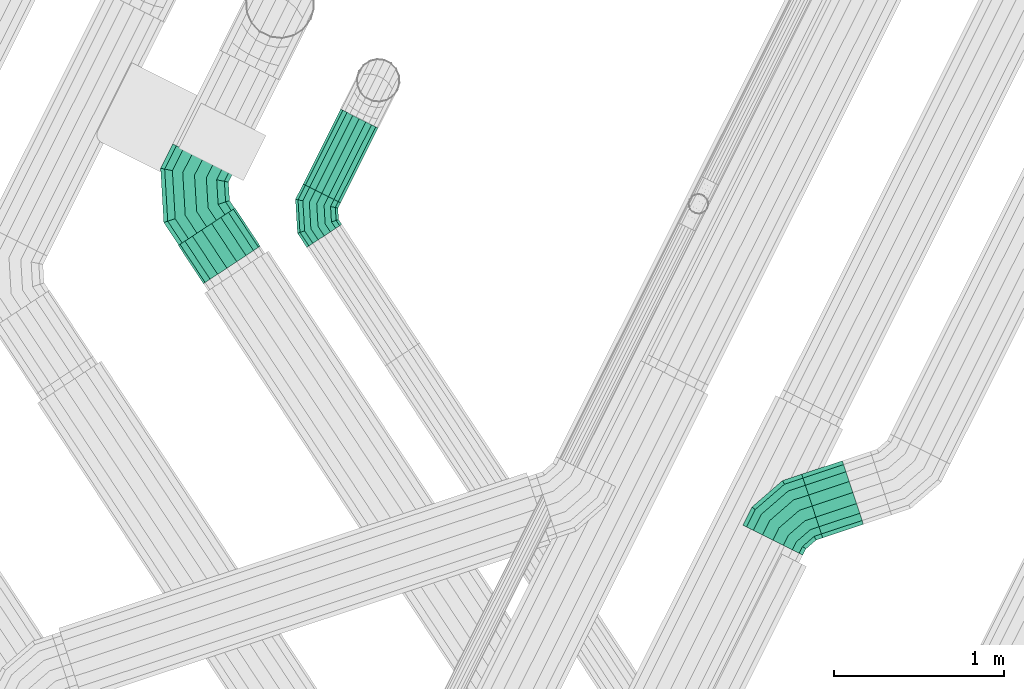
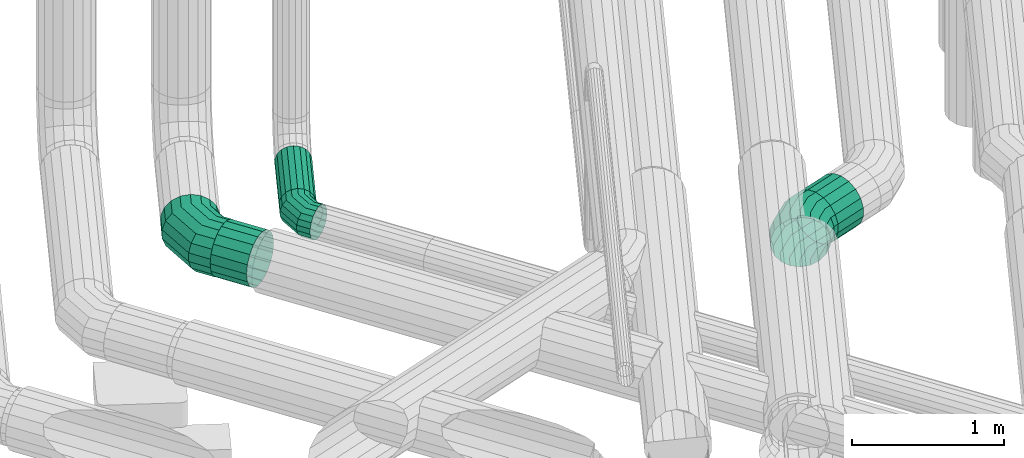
# One storey, part 137 of 206: 3 flow fittings, 3 flow segments.
"""IFC2X3 building model written with IfcOpenShell, lengths in metres."""

from ifc_helpers import new_model, si_unit, derived_unit, direction, frame, origin, place, context, subcontext, project, spatial, face_set, surface_model, source, transform, mapped, material, type_object, type_shapes, element, save


model = new_model("IFC2X3")

# Units and contexts
model_context = context("Model", 3, precision=5.2338327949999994e-05, world=origin(), true_north=direction((0.0, 1.0)))
body_context = subcontext(model_context, "Body", "Model", "MODEL_VIEW")
ifc_project = project(units=[si_unit("LENGTHUNIT", "METRE"), si_unit("AREAUNIT", "SQUARE_METRE"), si_unit("VOLUMEUNIT", "CUBIC_METRE"), si_unit("MASSUNIT", "GRAM", prefix="KILO"), si_unit("PLANEANGLEUNIT", "RADIAN"), derived_unit("THERMALTRANSMITTANCEUNIT", [(si_unit("MASSUNIT", "GRAM", prefix="KILO"), 1), (si_unit("THERMODYNAMICTEMPERATUREUNIT", "KELVIN"), -1), (si_unit("TIMEUNIT", "SECOND"), -3)])], contexts=[model_context])

# Site, building, storey
site_placement = place(None, frame((0.0, 0.0, 0.0), z_axis=(0.0, 0.0, 1.0), x_axis=(0.8939966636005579, -0.4480736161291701, 0.0)))
site = spatial("IfcSite", under=ifc_project, at=site_placement, Name="Default", CompositionType="ELEMENT")
building_placement = place(site_placement, origin())
building = spatial("IfcBuilding", under=site, at=building_placement, CompositionType="ELEMENT")
storey_placement = place(building_placement, origin())
storey = spatial("IfcBuildingStorey", under=building, at=storey_placement, Name="Erdgeschoss", CompositionType="ELEMENT", Elevation=0.0)

# Flow fitting
ifc_material = material(Name="IfcSurfaceStyle #251447")
distribution_element_type_1 = type_object("IfcDistributionElementType", Name="Segmentbogen 3 teilig 281600:Segmentbogen 3 teilig 281600", material=ifc_material)
shared_shape_1 = source(origin(), body_context, "Body", "SurfaceModel", [
    surface_model("IfcFaceBasedSurfaceModel", [(21.1572594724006, 11.983675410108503, 2.4000000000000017), (21.191461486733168, 12.042915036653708, 2.3879385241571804), (21.11451437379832, 12.087340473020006, 2.3879385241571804), (21.064439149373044, 12.037265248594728, 2.4000000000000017), (21.221538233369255, 12.095009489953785, 2.3532088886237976), (21.158549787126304, 12.131375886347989, 2.3532088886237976), (21.243862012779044, 12.133675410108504, 2.300000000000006), (21.19123406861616, 12.16406016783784, 2.300000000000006), (21.255740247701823, 12.15424911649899, 2.234729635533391), (21.208625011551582, 12.181451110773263, 2.234729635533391), (21.255740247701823, 12.154249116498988, 2.165270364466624), (21.208625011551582, 12.181451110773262, 2.165270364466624), (21.243862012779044, 12.133675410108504, 2.100000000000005), (21.19123406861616, 12.16406016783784, 2.100000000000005), (21.221538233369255, 12.09500948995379, 2.0467911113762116), (21.158549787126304, 12.13137588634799, 2.0467911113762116), (21.191461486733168, 12.04291503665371, 2.0120614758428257), (21.114514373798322, 12.087340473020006, 2.0120614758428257), (21.1572594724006, 11.983675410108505, 2.0), (21.064439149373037, 12.037265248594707, 2.0), (21.123057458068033, 11.9244357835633, 2.0120614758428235), (21.014363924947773, 11.987190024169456, 2.0120614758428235), (21.092980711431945, 11.87234133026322, 2.0467911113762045), (20.970328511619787, 11.943154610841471, 2.0467911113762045), (21.07065693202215, 11.833675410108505, 2.099999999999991), (20.93764423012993, 11.91047032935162, 2.099999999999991), (21.058778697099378, 11.813101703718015, 2.1652703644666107), (20.920253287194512, 11.893079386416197, 2.1652703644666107), (21.058778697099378, 11.813101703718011, 2.234729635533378), (20.920253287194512, 11.893079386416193, 2.234729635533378), (21.07065693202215, 11.833675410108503, 2.299999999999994), (20.93764423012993, 11.910470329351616, 2.299999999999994), (21.09298071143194, 11.87234133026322, 2.35320888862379), (20.970328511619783, 11.943154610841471, 2.35320888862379), (21.123057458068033, 11.924435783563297, 2.3879385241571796), (21.014363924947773, 11.987190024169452, 2.3879385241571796), (21.025663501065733, 12.241234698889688, 2.3879385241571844), (20.957259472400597, 12.222905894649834, 2.400000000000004), (21.085816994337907, 12.25735277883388, 2.3532088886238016), (21.130464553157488, 12.269316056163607, 2.3000000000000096), (21.15422102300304, 12.275681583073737, 2.23472963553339), (21.15422102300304, 12.275681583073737, 2.1652703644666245), (21.13046455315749, 12.269316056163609, 2.1000000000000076), (21.085816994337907, 12.257352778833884, 2.046791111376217), (21.02566350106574, 12.241234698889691, 2.0120614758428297), (20.957259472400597, 12.222905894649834, 2.0), (20.888855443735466, 12.204577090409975, 2.0120614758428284), (20.82870195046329, 12.188459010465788, 2.0467911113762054), (20.784054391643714, 12.17649573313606, 2.0999999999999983), (20.76029792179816, 12.170130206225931, 2.16527036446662), (20.76029792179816, 12.170130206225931, 2.2347296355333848), (20.784054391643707, 12.17649573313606, 2.3), (20.82870195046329, 12.188459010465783, 2.353208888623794), (20.888855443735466, 12.204577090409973, 2.387938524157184), (21.02566350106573, 12.330085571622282, 2.387938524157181), (20.957259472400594, 12.330085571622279, 2.399999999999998), (21.085816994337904, 12.330085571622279, 2.353208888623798), (21.130464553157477, 12.330085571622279, 2.300000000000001), (21.154221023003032, 12.330085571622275, 2.234729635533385), (21.154221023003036, 12.330085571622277, 2.1652703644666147), (21.130464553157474, 12.330085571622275, 2.1000000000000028), (21.085816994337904, 12.330085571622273, 2.046791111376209), (21.025663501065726, 12.330085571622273, 2.0120614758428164), (20.95725947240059, 12.33008557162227, 2.0), (20.88885544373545, 12.330085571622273, 2.0120614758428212), (20.82870195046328, 12.330085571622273, 2.046791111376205), (20.784054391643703, 12.330085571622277, 2.1), (20.760297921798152, 12.330085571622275, 2.1652703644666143), (20.760297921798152, 12.330085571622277, 2.2347296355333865), (20.7840543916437, 12.330085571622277, 2.300000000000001), (20.82870195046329, 12.330085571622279, 2.353208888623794), (20.888855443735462, 12.330085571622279, 2.3879385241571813)], [face_set([[[0, 1, 2, 3]], [[1, 4, 5, 2]], [[4, 6, 7, 5]], [[6, 8, 9, 7]], [[8, 10, 11, 9]], [[10, 12, 13, 11]], [[12, 14, 15, 13]], [[14, 16, 17, 15]], [[16, 18, 19, 17]], [[18, 20, 21, 19]], [[20, 22, 23, 21]], [[22, 24, 25, 23]], [[24, 26, 27, 25]], [[26, 28, 29, 27]], [[28, 30, 31, 29]], [[30, 32, 33, 31]], [[32, 34, 35, 33]], [[34, 0, 3, 35]], [[3, 2, 36, 37]], [[2, 5, 38, 36]], [[5, 7, 39, 38]], [[7, 9, 40, 39]], [[9, 11, 41, 40]], [[11, 13, 42, 41]], [[13, 15, 43, 42]], [[15, 17, 44, 43]], [[17, 19, 45, 44]], [[19, 21, 46, 45]], [[21, 23, 47, 46]], [[23, 25, 48, 47]], [[25, 27, 49, 48]], [[27, 29, 50, 49]], [[29, 31, 51, 50]], [[31, 33, 52, 51]], [[33, 35, 53, 52]], [[35, 3, 37, 53]], [[37, 36, 54, 55]], [[36, 38, 56, 54]], [[38, 39, 57, 56]], [[39, 40, 58, 57]], [[40, 41, 59, 58]], [[41, 42, 60, 59]], [[42, 43, 61, 60]], [[43, 44, 62, 61]], [[44, 45, 63, 62]], [[45, 46, 64, 63]], [[46, 47, 65, 64]], [[47, 48, 66, 65]], [[48, 49, 67, 66]], [[49, 50, 68, 67]], [[50, 51, 69, 68]], [[51, 52, 70, 69]], [[52, 53, 71, 70]], [[53, 37, 55, 71]]])]),
])
type_shapes(distribution_element_type_1, [shared_shape_1])
flow_fitting_1_placement = place(storey_placement, origin())
element("IfcFlowFitting", 1, at=flow_fitting_1_placement, inside=storey, type_object=distribution_element_type_1, material=ifc_material, Name="Segmentbogen 3 teilig", ObjectType="Segmentbogen 3 teilig", context=body_context, shape_type="MappedRepresentation", body=[
    mapped(shared_shape_1, transform((0.0, 0.0, 0.0), scale=1.0)),
])

# Flow segment
distribution_element_type_2 = type_object("IfcDistributionElementType", Name="Wickelfalzrohr 281623:Wickelfalzrohr 281623", material=ifc_material)
shared_shape_2 = source(origin(), body_context, "Body", "SurfaceModel", [
    surface_model("IfcFaceBasedSurfaceModel", [(21.290150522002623, 11.676010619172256, 2.200000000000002), (21.296181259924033, 11.68645616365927, 2.2684040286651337), (21.063290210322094, 11.820915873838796, 2.2684040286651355), (21.057259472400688, 11.81047032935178, 2.200000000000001), (21.313546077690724, 11.716532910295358, 2.3285575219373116), (21.080655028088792, 11.850992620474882, 2.328557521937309), (21.34015052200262, 11.762613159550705, 2.3732050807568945), (21.10725947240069, 11.897072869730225, 2.3732050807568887), (21.37278570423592, 11.819138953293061, 2.396961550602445), (21.13989465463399, 11.953598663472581, 2.396961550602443), (21.40751533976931, 11.879292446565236, 2.3969615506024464), (21.174624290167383, 12.01375215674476, 2.3969615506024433), (21.440150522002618, 11.935818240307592, 2.373205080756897), (21.207259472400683, 12.070277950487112, 2.37320508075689), (21.46675496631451, 11.981898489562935, 2.3285575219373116), (21.233863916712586, 12.116358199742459, 2.3285575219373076), (21.48411978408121, 12.011975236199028, 2.2684040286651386), (21.251228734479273, 12.146434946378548, 2.2684040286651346), (21.490150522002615, 12.022420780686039, 2.200000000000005), (21.25725947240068, 12.15688049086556, 2.200000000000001), (21.4841197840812, 12.011975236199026, 2.1315959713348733), (21.251228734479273, 12.146434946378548, 2.131595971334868), (21.46675496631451, 11.98189848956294, 2.071442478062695), (21.233863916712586, 12.11635819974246, 2.071442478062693), (21.440150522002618, 11.935818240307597, 2.026794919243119), (21.207259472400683, 12.070277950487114, 2.026794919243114), (21.40751533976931, 11.87929244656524, 2.003038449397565), (21.174624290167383, 12.01375215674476, 2.00303844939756), (21.37278570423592, 11.819138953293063, 2.003038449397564), (21.13989465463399, 11.953598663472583, 2.00303844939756), (21.34015052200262, 11.762613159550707, 2.0267949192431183), (21.10725947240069, 11.897072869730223, 2.0267949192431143), (21.313546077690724, 11.716532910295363, 2.0714424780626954), (21.080655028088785, 11.85099262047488, 2.071442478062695), (21.296181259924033, 11.686456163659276, 2.13159597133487), (21.0632902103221, 11.820915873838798, 2.131595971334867)], [face_set([[[0, 1, 2, 3]], [[1, 4, 5, 2]], [[4, 6, 7, 5]], [[6, 8, 9, 7]], [[8, 10, 11, 9]], [[10, 12, 13, 11]], [[12, 14, 15, 13]], [[14, 16, 17, 15]], [[16, 18, 19, 17]], [[18, 20, 21, 19]], [[20, 22, 23, 21]], [[22, 24, 25, 23]], [[24, 26, 27, 25]], [[26, 28, 29, 27]], [[28, 30, 31, 29]], [[30, 32, 33, 31]], [[32, 34, 35, 33]], [[34, 0, 3, 35]]])]),
])
type_shapes(distribution_element_type_2, [shared_shape_2])
flow_segment_1_placement = place(storey_placement, origin())
element("IfcFlowSegment", 2, at=flow_segment_1_placement, inside=storey, type_object=distribution_element_type_2, material=ifc_material, Name="Wickelfalzrohr", ObjectType="Wickelfalzrohr", context=body_context, shape_type="MappedRepresentation", body=[
    mapped(shared_shape_2, transform((0.0, 0.0, 0.0), scale=1.0)),
])

# Flow fitting
distribution_element_type_3 = type_object("IfcDistributionElementType", Name="Segmentbogen 3 teilig 284191:Segmentbogen 3 teilig 284191", material=ifc_material)
shared_shape_3 = source(origin(), body_context, "Body", "SurfaceModel", [
    surface_model("IfcFaceBasedSurfaceModel", [(21.79977043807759, 12.24569064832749, 2.3249999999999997), (21.821146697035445, 12.282715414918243, 2.3174615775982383), (21.773054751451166, 12.310481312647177, 2.3174615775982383), (21.74175773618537, 12.27918429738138, 2.3249999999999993), (21.839944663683, 12.31527444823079, 2.2957555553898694), (21.800576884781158, 12.338003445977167, 2.2957555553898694), (21.853897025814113, 12.339440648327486, 2.262499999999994), (21.821004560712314, 12.358431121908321, 2.262499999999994), (21.861320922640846, 12.352299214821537, 2.2217060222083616), (21.83187390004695, 12.369300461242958, 2.2217060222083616), (21.861320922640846, 12.352299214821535, 2.1782939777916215), (21.83187390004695, 12.369300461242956, 2.1782939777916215), (21.85389702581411, 12.339440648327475, 2.137499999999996), (21.821004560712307, 12.35843112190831, 2.137499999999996), (21.83994466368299, 12.315274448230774, 2.1042444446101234), (21.800576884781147, 12.338003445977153, 2.104244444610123), (21.821146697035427, 12.282715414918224, 2.0825384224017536), (21.773054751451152, 12.310481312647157, 2.0825384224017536), (21.799770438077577, 12.24569064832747, 2.075000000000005), (21.74175773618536, 12.27918429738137, 2.0750000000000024), (21.778394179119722, 12.208665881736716, 2.0825384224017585), (21.710460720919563, 12.247887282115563, 2.0825384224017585), (21.75959621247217, 12.176106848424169, 2.104244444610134), (21.68293858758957, 12.220365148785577, 2.104244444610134), (21.745643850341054, 12.151940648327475, 2.137500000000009), (21.662510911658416, 12.199937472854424, 2.1375000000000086), (21.738219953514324, 12.139082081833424, 2.1782939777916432), (21.65164157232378, 12.189068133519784, 2.1782939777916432), (21.73821995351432, 12.139082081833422, 2.221706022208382), (21.65164157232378, 12.189068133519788, 2.221706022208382), (21.745643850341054, 12.15194064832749, 2.262500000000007), (21.66251091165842, 12.199937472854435, 2.2625000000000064), (21.75959621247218, 12.176106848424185, 2.295755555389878), (21.682938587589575, 12.22036514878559, 2.295755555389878), (21.778394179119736, 12.208665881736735, 2.3174615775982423), (21.71046072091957, 12.247887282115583, 2.3174615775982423), (21.7175229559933, 12.406665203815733, 2.3174615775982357), (21.674770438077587, 12.39520970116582, 2.324999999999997), (21.7551188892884, 12.41673900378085, 2.2957555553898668), (21.783023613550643, 12.424216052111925, 2.26249999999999), (21.797871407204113, 12.428194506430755, 2.221706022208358), (21.797871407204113, 12.42819450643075, 2.1782939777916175), (21.783023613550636, 12.424216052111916, 2.1374999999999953), (21.755118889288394, 12.416739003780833, 2.104244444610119), (21.71752295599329, 12.406665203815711, 2.0825384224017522), (21.674770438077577, 12.3952097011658, 2.0749999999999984), (21.632017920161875, 12.383754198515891, 2.0825384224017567), (21.594421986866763, 12.373680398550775, 2.104244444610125), (21.56651726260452, 12.366203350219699, 2.137500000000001), (21.551669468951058, 12.36222489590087, 2.178293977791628), (21.55166946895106, 12.362224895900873, 2.2217060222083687), (21.56651726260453, 12.36620335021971, 2.2625), (21.59442198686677, 12.37368039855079, 2.2957555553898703), (21.632017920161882, 12.383754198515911, 2.3174615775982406), (21.717522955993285, 12.462196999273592, 2.317461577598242), (21.674770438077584, 12.462196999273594, 2.3249999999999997), (21.755118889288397, 12.462196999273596, 2.2957555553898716), (21.78302361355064, 12.462196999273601, 2.262500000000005), (21.79787140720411, 12.462196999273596, 2.2217060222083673), (21.79787140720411, 12.462196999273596, 2.1782939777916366), (21.783023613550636, 12.4621969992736, 2.137500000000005), (21.755118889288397, 12.462196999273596, 2.104244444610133), (21.717522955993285, 12.462196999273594, 2.0825384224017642), (21.674770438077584, 12.462196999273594, 2.0750000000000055), (21.632017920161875, 12.462196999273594, 2.0825384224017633), (21.594421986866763, 12.462196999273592, 2.104244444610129), (21.56651726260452, 12.46219699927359, 2.1375000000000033), (21.55166946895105, 12.462196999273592, 2.178293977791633), (21.55166946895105, 12.462196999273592, 2.2217060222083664), (21.56651726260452, 12.462196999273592, 2.262500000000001), (21.59442198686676, 12.462196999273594, 2.2957555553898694), (21.63201792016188, 12.462196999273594, 2.317461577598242)], [face_set([[[0, 1, 2, 3]], [[1, 4, 5, 2]], [[4, 6, 7, 5]], [[6, 8, 9, 7]], [[8, 10, 11, 9]], [[10, 12, 13, 11]], [[12, 14, 15, 13]], [[14, 16, 17, 15]], [[16, 18, 19, 17]], [[18, 20, 21, 19]], [[20, 22, 23, 21]], [[22, 24, 25, 23]], [[24, 26, 27, 25]], [[26, 28, 29, 27]], [[28, 30, 31, 29]], [[30, 32, 33, 31]], [[32, 34, 35, 33]], [[34, 0, 3, 35]], [[3, 2, 36, 37]], [[2, 5, 38, 36]], [[5, 7, 39, 38]], [[7, 9, 40, 39]], [[9, 11, 41, 40]], [[11, 13, 42, 41]], [[13, 15, 43, 42]], [[15, 17, 44, 43]], [[17, 19, 45, 44]], [[19, 21, 46, 45]], [[21, 23, 47, 46]], [[23, 25, 48, 47]], [[25, 27, 49, 48]], [[27, 29, 50, 49]], [[29, 31, 51, 50]], [[31, 33, 52, 51]], [[33, 35, 53, 52]], [[35, 3, 37, 53]], [[37, 36, 54, 55]], [[36, 38, 56, 54]], [[38, 39, 57, 56]], [[39, 40, 58, 57]], [[40, 41, 59, 58]], [[41, 42, 60, 59]], [[42, 43, 61, 60]], [[43, 44, 62, 61]], [[44, 45, 63, 62]], [[45, 46, 64, 63]], [[46, 47, 65, 64]], [[47, 48, 66, 65]], [[48, 49, 67, 66]], [[49, 50, 68, 67]], [[50, 51, 69, 68]], [[51, 52, 70, 69]], [[52, 53, 71, 70]], [[53, 37, 55, 71]]])]),
])
type_shapes(distribution_element_type_3, [shared_shape_3])
flow_fitting_2_placement = place(storey_placement, origin())
element("IfcFlowFitting", 3, at=flow_fitting_2_placement, inside=storey, type_object=distribution_element_type_3, material=ifc_material, Name="Segmentbogen 3 teilig", ObjectType="Segmentbogen 3 teilig", context=body_context, shape_type="MappedRepresentation", body=[
    mapped(shared_shape_3, transform((0.0, 0.0, 0.0), scale=1.0)),
])

# Flow segment
distribution_element_type_4 = type_object("IfcDistributionElementType", Name="Wickelfalzrohr 284655:Wickelfalzrohr 284655", material=ifc_material)
shared_shape_4 = source(origin(), body_context, "Body", "SurfaceModel", [
    surface_model("IfcFaceBasedSurfaceModel", [(21.67477043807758, 12.4621969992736, 2.0749999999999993), (21.63201792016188, 12.4621969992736, 2.0825384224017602), (21.63201792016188, 12.9551969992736, 2.08253842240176), (21.674770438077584, 12.9551969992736, 2.074999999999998), (21.594421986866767, 12.4621969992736, 2.1042444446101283), (21.594421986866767, 12.9551969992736, 2.1042444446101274), (21.56651726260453, 12.4621969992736, 2.1375000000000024), (21.56651726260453, 12.9551969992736, 2.137500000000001), (21.55166946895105, 12.4621969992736, 2.178293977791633), (21.551669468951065, 12.9551969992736, 2.178293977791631), (21.551669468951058, 12.4621969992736, 2.221706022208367), (21.551669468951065, 12.9551969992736, 2.221706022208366), (21.566517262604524, 12.4621969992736, 2.2624999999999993), (21.566517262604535, 12.9551969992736, 2.2624999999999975), (21.594421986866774, 12.4621969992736, 2.2957555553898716), (21.59442198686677, 12.9551969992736, 2.2957555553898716), (21.63201792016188, 12.4621969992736, 2.317461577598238), (21.632017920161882, 12.9551969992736, 2.3174615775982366), (21.674770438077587, 12.4621969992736, 2.3249999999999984), (21.674770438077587, 12.9551969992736, 2.3249999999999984), (21.71752295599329, 12.4621969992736, 2.3174615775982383), (21.7175229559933, 12.9551969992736, 2.3174615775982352), (21.7551188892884, 12.4621969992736, 2.29575555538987), (21.755118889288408, 12.9551969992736, 2.2957555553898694), (21.78302361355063, 12.4621969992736, 2.262499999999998), (21.783023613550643, 12.9551969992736, 2.2624999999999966), (21.797871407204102, 12.4621969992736, 2.221706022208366), (21.797871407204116, 12.9551969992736, 2.221706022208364), (21.7978714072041, 12.4621969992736, 2.178293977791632), (21.797871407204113, 12.9551969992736, 2.1782939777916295), (21.783023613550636, 12.4621969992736, 2.1374999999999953), (21.783023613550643, 12.9551969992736, 2.1374999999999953), (21.755118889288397, 12.4621969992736, 2.1042444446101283), (21.755118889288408, 12.9551969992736, 2.104244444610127), (21.717522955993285, 12.4621969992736, 2.082538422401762), (21.717522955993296, 12.9551969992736, 2.0825384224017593)], [face_set([[[0, 1, 2, 3]], [[1, 4, 5, 2]], [[4, 6, 7, 5]], [[6, 8, 9, 7]], [[8, 10, 11, 9]], [[10, 12, 13, 11]], [[12, 14, 15, 13]], [[14, 16, 17, 15]], [[16, 18, 19, 17]], [[18, 20, 21, 19]], [[20, 22, 23, 21]], [[22, 24, 25, 23]], [[24, 26, 27, 25]], [[26, 28, 29, 27]], [[28, 30, 31, 29]], [[30, 32, 33, 31]], [[32, 34, 35, 33]], [[34, 0, 3, 35]]])]),
])
type_shapes(distribution_element_type_4, [shared_shape_4])
flow_segment_2_placement = place(storey_placement, origin())
element("IfcFlowSegment", 4, at=flow_segment_2_placement, inside=storey, type_object=distribution_element_type_4, material=ifc_material, Name="Wickelfalzrohr", ObjectType="Wickelfalzrohr", context=body_context, shape_type="MappedRepresentation", body=[
    mapped(shared_shape_4, transform((0.0, 0.0, 0.0), scale=1.0)),
])

# Flow fitting
distribution_element_type_5 = type_object("IfcDistributionElementType", Name="Segmentbogen 3 teilig 295357:Segmentbogen 3 teilig 295357", material=ifc_material)
shared_shape_5 = source(origin(), body_context, "Body", "SurfaceModel", [
    surface_model("IfcFaceBasedSurfaceModel", [(25.07766627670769, 12.111051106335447, 2.0), (25.12603522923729, 12.062682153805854, 2.012061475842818), (25.079395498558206, 12.016042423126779, 2.0120614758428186), (25.02140536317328, 12.054790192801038, 2.0), (25.168570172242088, 12.020147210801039, 2.0467911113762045), (25.130391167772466, 11.981968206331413, 2.0467911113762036), (25.20014076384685, 11.988576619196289, 2.1000000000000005), (25.168241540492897, 11.956677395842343, 2.0999999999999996), (25.21693912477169, 11.971778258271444, 2.1652703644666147), (25.188381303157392, 11.943220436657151, 2.1652703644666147), (25.21693912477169, 11.971778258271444, 2.234729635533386), (25.188381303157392, 11.943220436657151, 2.234729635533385), (25.200140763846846, 11.988576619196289, 2.3), (25.168241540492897, 11.956677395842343, 2.299999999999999), (25.168570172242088, 12.02014721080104, 2.353208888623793), (25.130391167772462, 11.981968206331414, 2.353208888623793), (25.12603522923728, 12.062682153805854, 2.3879385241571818), (25.079395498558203, 12.016042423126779, 2.3879385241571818), (25.07766627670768, 12.11105110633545, 2.3999999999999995), (25.021405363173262, 12.054790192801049, 2.399999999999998), (25.029297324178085, 12.159420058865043, 2.387938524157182), (24.963415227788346, 12.093537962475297, 2.387938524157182), (24.986762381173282, 12.201955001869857, 2.353208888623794), (24.91241955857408, 12.12761217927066, 2.3532088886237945), (24.955191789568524, 12.233525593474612, 2.3000000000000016), (24.87456918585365, 12.152902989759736, 2.300000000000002), (24.93839342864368, 12.250323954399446, 2.2347296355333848), (24.854429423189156, 12.166359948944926, 2.2347296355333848), (24.93839342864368, 12.250323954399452, 2.1652703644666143), (24.854429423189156, 12.166359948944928, 2.1652703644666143), (24.955191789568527, 12.233525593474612, 2.099999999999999), (24.87456918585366, 12.152902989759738, 2.0999999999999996), (24.986762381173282, 12.201955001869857, 2.046791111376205), (24.91241955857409, 12.127612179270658, 2.0467911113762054), (25.029297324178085, 12.159420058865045, 2.012061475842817), (24.963415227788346, 12.093537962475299, 2.0120614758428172), (25.02891301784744, 11.894166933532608, 2.0120614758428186), (24.96050898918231, 11.907773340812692, 2.0), (25.089066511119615, 11.882201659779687, 2.0467911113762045), (25.13371406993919, 11.873320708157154, 2.1000000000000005), (25.15747053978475, 11.868595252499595, 2.1652703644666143), (25.157470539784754, 11.868595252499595, 2.234729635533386), (25.133714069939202, 11.873320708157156, 2.3000000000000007), (25.089066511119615, 11.882201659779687, 2.353208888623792), (25.02891301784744, 11.894166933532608, 2.3879385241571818), (24.960508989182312, 11.907773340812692, 2.3999999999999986), (24.892104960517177, 11.921379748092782, 2.3879385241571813), (24.831951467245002, 11.933345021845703, 2.3532088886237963), (24.787303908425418, 11.942225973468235, 2.2999999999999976), (24.763547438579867, 11.946951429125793, 2.2347296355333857), (24.76354743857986, 11.946951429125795, 2.1652703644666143), (24.787303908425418, 11.942225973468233, 2.1), (24.83195146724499, 11.933345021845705, 2.0467911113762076), (24.892104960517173, 11.921379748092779, 2.0120614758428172), (25.02891301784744, 11.828208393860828, 2.0120614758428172), (24.96050898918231, 11.828208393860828, 2.0), (25.08906651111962, 11.828208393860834, 2.0467911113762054), (25.133714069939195, 11.828208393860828, 2.099999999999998), (25.157470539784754, 11.828208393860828, 2.165270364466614), (25.157470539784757, 11.828208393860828, 2.234729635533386), (25.133714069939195, 11.828208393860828, 2.3000000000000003), (25.08906651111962, 11.828208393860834, 2.3532088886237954), (25.02891301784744, 11.828208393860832, 2.3879385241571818), (24.960508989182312, 11.828208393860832, 2.4), (24.892104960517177, 11.828208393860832, 2.3879385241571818), (24.831951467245, 11.828208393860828, 2.353208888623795), (24.787303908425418, 11.828208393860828, 2.3000000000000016), (24.76354743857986, 11.828208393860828, 2.2347296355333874), (24.763547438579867, 11.828208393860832, 2.165270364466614), (24.787303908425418, 11.828208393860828, 2.1), (24.83195146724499, 11.828208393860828, 2.0467911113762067), (24.892104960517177, 11.828208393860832, 2.0120614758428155)], [face_set([[[0, 1, 2, 3]], [[1, 4, 5, 2]], [[4, 6, 7, 5]], [[6, 8, 9, 7]], [[8, 10, 11, 9]], [[10, 12, 13, 11]], [[12, 14, 15, 13]], [[14, 16, 17, 15]], [[16, 18, 19, 17]], [[18, 20, 21, 19]], [[20, 22, 23, 21]], [[22, 24, 25, 23]], [[24, 26, 27, 25]], [[26, 28, 29, 27]], [[28, 30, 31, 29]], [[30, 32, 33, 31]], [[32, 34, 35, 33]], [[34, 0, 3, 35]], [[3, 2, 36, 37]], [[2, 5, 38, 36]], [[5, 7, 39, 38]], [[7, 9, 40, 39]], [[9, 11, 41, 40]], [[11, 13, 42, 41]], [[13, 15, 43, 42]], [[15, 17, 44, 43]], [[17, 19, 45, 44]], [[19, 21, 46, 45]], [[21, 23, 47, 46]], [[23, 25, 48, 47]], [[25, 27, 49, 48]], [[27, 29, 50, 49]], [[29, 31, 51, 50]], [[31, 33, 52, 51]], [[33, 35, 53, 52]], [[35, 3, 37, 53]], [[37, 36, 54, 55]], [[36, 38, 56, 54]], [[38, 39, 57, 56]], [[39, 40, 58, 57]], [[40, 41, 59, 58]], [[41, 42, 60, 59]], [[42, 43, 61, 60]], [[43, 44, 62, 61]], [[44, 45, 63, 62]], [[45, 46, 64, 63]], [[46, 47, 65, 64]], [[47, 48, 66, 65]], [[48, 49, 67, 66]], [[49, 50, 68, 67]], [[50, 51, 69, 68]], [[51, 52, 70, 69]], [[52, 53, 71, 70]], [[53, 37, 55, 71]]])]),
])
type_shapes(distribution_element_type_5, [shared_shape_5])
flow_fitting_3_placement = place(storey_placement, origin())
element("IfcFlowFitting", 5, at=flow_fitting_3_placement, inside=storey, type_object=distribution_element_type_5, material=ifc_material, Name="Segmentbogen 3 teilig", ObjectType="Segmentbogen 3 teilig", context=body_context, shape_type="MappedRepresentation", body=[
    mapped(shared_shape_5, transform((0.0, 0.0, 0.0), scale=1.0)),
])

# Flow segment
distribution_element_type_6 = type_object("IfcDistributionElementType", Name="Wickelfalzrohr 295891:Wickelfalzrohr 295891", material=ifc_material)
shared_shape_6 = source(origin(), body_context, "Body", "SurfaceModel", [
    surface_model("IfcFaceBasedSurfaceModel", [(25.07766627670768, 12.111051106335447, 2.0), (25.02929732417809, 12.159420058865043, 2.0120614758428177), (25.20762557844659, 12.337748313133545, 2.0120614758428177), (25.255994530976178, 12.289379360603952, 2.0), (24.98676238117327, 12.201955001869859, 2.0467911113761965), (25.16509063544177, 12.380283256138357, 2.0467911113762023), (24.95519178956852, 12.233525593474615, 2.099999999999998), (25.133520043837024, 12.41185384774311, 2.100000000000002), (24.938393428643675, 12.250323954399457, 2.165270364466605), (25.116721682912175, 12.428652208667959, 2.165270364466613), (24.938393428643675, 12.250323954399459, 2.2347296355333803), (25.116721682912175, 12.428652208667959, 2.234729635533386), (24.955191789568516, 12.233525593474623, 2.2999999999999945), (25.13352004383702, 12.411853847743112, 2.300000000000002), (24.986762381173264, 12.201955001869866, 2.353208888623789), (25.16509063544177, 12.380283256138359, 2.353208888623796), (25.02929732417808, 12.159420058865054, 2.3879385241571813), (25.20762557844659, 12.337748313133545, 2.3879385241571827), (25.077666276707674, 12.111051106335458, 2.400000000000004), (25.255994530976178, 12.289379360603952, 2.4000000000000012), (25.126035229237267, 12.062682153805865, 2.387938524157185), (25.304363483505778, 12.241010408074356, 2.3879385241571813), (25.168570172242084, 12.02014721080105, 2.353208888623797), (25.346898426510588, 12.198475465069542, 2.3532088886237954), (25.200140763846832, 11.9885766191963, 2.3000000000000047), (25.378469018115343, 12.166904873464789, 2.299999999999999), (25.216939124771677, 11.971778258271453, 2.2347296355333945), (25.395267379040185, 12.150106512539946, 2.234729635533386), (25.216939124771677, 11.971778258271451, 2.1652703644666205), (25.395267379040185, 12.150106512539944, 2.1652703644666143), (25.200140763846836, 11.988576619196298, 2.1000000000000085), (25.378469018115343, 12.16690487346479, 2.1), (25.168570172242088, 12.02014721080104, 2.0467911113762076), (25.346898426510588, 12.19847546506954, 2.0467911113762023), (25.126035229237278, 12.062682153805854, 2.0120614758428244), (25.30436348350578, 12.241010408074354, 2.012061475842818)], [face_set([[[0, 1, 2, 3]], [[1, 4, 5, 2]], [[4, 6, 7, 5]], [[6, 8, 9, 7]], [[8, 10, 11, 9]], [[10, 12, 13, 11]], [[12, 14, 15, 13]], [[14, 16, 17, 15]], [[16, 18, 19, 17]], [[18, 20, 21, 19]], [[20, 22, 23, 21]], [[22, 24, 25, 23]], [[24, 26, 27, 25]], [[26, 28, 29, 27]], [[28, 30, 31, 29]], [[30, 32, 33, 31]], [[32, 34, 35, 33]], [[34, 0, 3, 35]]])]),
])
type_shapes(distribution_element_type_6, [shared_shape_6])
flow_segment_3_placement = place(storey_placement, origin())
element("IfcFlowSegment", 6, at=flow_segment_3_placement, inside=storey, type_object=distribution_element_type_6, material=ifc_material, Name="Wickelfalzrohr", ObjectType="Wickelfalzrohr", context=body_context, shape_type="MappedRepresentation", body=[
    mapped(shared_shape_6, transform((0.0, 0.0, 0.0), scale=1.0)),
])

save(model, "model.ifc")
